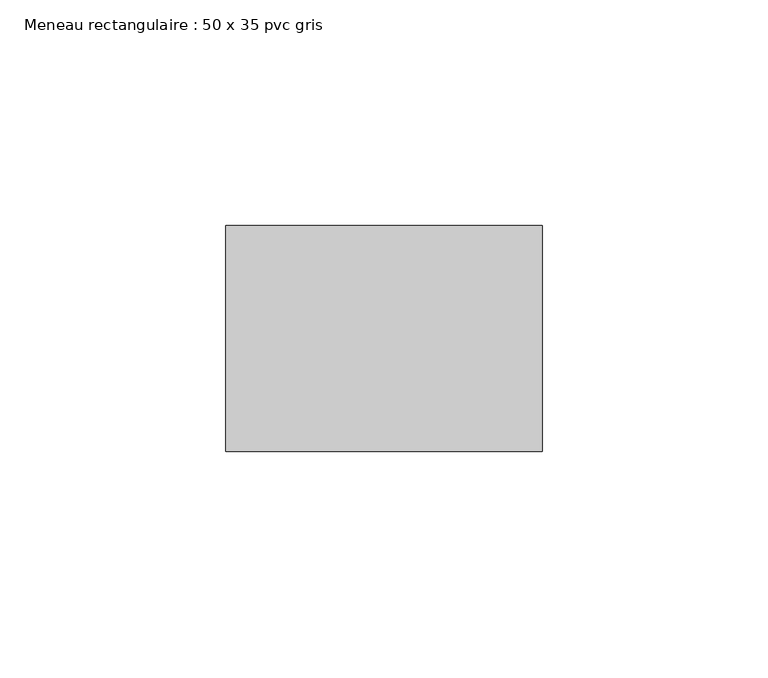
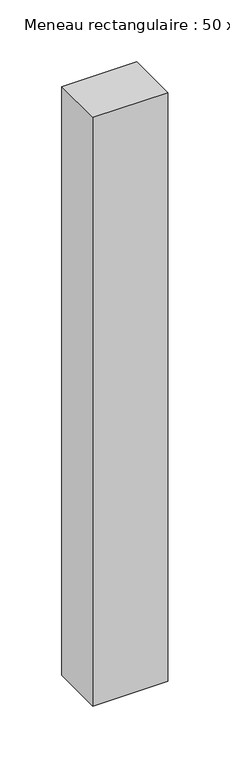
"""IFC4 building model written with IfcOpenShell, lengths in millimetres: member geometry, Meneau rectangulaire : 50 x 35 pvc gris."""

import ifcopenshell
import ifcopenshell.guid

model = None  # the IFC model being written
_history = None  # IfcOwnerHistory: only IFC2X3 demands one
_inside = {}  # id of a spatial element -> (the spatial element, [elements in it])
_under = {}  # id of a project, library or spatial element -> (it, [spatial elements below it])
_declared = {}  # id of a project -> (the project, [libraries it declares])
_typed = {}  # id of a type object -> (the type object, [elements of that type])
_made_of = {}  # id of a material, layer set ... -> (it, [elements and type objects made of it])


def new_model(schema):
    """Start an empty IFC model of exactly this schema.

    Asked for "IFC4X3", IfcOpenShell would pick the latest addendum, in which some entities
    have other attributes; the version numbers below select the first issue.
    IFC2X3 requires an IfcOwnerHistory on every rooted entity: one is made here for all.
    """
    global model, _history
    if schema == "IFC4X3":
        model = ifcopenshell.file(schema_version=(4, 3, 0, 0))
    else:
        model = ifcopenshell.file(schema=schema)
    _inside.clear()
    _under.clear()
    _declared.clear()
    _typed.clear()
    _made_of.clear()
    _history = None
    if model.schema == "IFC2X3":
        org = make("IfcOrganization", Name="unknown")
        user = make(
            "IfcPersonAndOrganization",
            ThePerson=make("IfcPerson", FamilyName="unknown"),
            TheOrganization=org,
        )
        app = make(
            "IfcApplication",
            ApplicationDeveloper=org,
            Version="unknown",
            ApplicationFullName="unknown",
            ApplicationIdentifier="unknown",
        )
        _history = make(
            "IfcOwnerHistory",
            OwningUser=user,
            OwningApplication=app,
            ChangeAction="ADDED",
            CreationDate=0,
        )
    return model


def make(cls, **values):
    """One entity of the class cls with the attributes given. An attribute that is None is left unset."""
    return model.create_entity(
        cls, **{name: value for name, value in values.items() if value is not None}
    )


def rooted(cls, **values):
    """An entity with a GlobalId (a new one), such as an element, a storey or a relation."""
    return make(cls, GlobalId=ifcopenshell.guid.new(), OwnerHistory=_history, **values)


def si_unit(unit_type, name, prefix=None):
    """IfcSIUnit, for example si_unit("LENGTHUNIT", "METRE", prefix="MILLI")."""
    return make("IfcSIUnit", UnitType=unit_type, Prefix=prefix, Name=name)


def assignment(units):
    """IfcUnitAssignment: the units of a project."""
    return None if units is None else make("IfcUnitAssignment", Units=units)


def point(xyz):
    """IfcCartesianPoint."""
    return None if xyz is None else make("IfcCartesianPoint", Coordinates=xyz)


def direction(xyz):
    """IfcDirection."""
    return None if xyz is None else make("IfcDirection", DirectionRatios=xyz)


def frame(location, z_axis=None, x_axis=None):
    """IfcAxis2Placement3D, a coordinate frame: its origin and axes. An axis left out is left unset."""
    return make(
        "IfcAxis2Placement3D",
        Location=point(location),
        Axis=direction(z_axis),
        RefDirection=direction(x_axis),
    )


def origin():
    """The frame at (0, 0, 0) with its axes left unset."""
    return frame((0.0, 0.0, 0.0))


def place(relative_to, where):
    """IfcLocalPlacement: puts the frame where relative to a parent placement (None: the world)."""
    return make(
        "IfcLocalPlacement", PlacementRelTo=relative_to, RelativePlacement=where
    )


def context(
    kind, dimensions, precision=None, world=None, true_north=None, identifier=None
):
    """IfcGeometricRepresentationContext, for example the 3D "Model" context."""
    return make(
        "IfcGeometricRepresentationContext",
        ContextIdentifier=identifier,
        ContextType=kind,
        CoordinateSpaceDimension=dimensions,
        Precision=precision,
        WorldCoordinateSystem=world,
        TrueNorth=true_north,
    )


def project(units=None, contexts=None):
    """IfcProject with its units and contexts."""
    return rooted(
        "IfcProject",
        Name="project",
        RepresentationContexts=contexts,
        UnitsInContext=assignment(units),
    )


def spatial(cls, under=None, at=None, **own):
    """A site, building, storey or space (cls), placed at a placement, below another one or the project."""
    s = rooted(cls, ObjectPlacement=at, **own)
    if under is not None:
        _under.setdefault(under.id(), (under, []))[1].append(s)
    return s


def polyline(points):
    """IfcPolyline through the points."""
    return make("IfcPolyline", Points=[point(p) for p in points])


def outline(outer, holes=None, kind="AREA"):
    """IfcArbitraryClosedProfileDef: a profile drawn as a closed curve; with holes, ...WithVoids."""
    if holes is None:
        return make("IfcArbitraryClosedProfileDef", ProfileType=kind, OuterCurve=outer)
    return make(
        "IfcArbitraryProfileDefWithVoids",
        ProfileType=kind,
        OuterCurve=outer,
        InnerCurves=holes,
    )


def extrude(swept, where, along, depth):
    """IfcExtrudedAreaSolid: the profile swept, set in the frame where, extruded along a direction by depth."""
    return make(
        "IfcExtrudedAreaSolid",
        SweptArea=swept,
        Position=where,
        ExtrudedDirection=direction(along),
        Depth=depth,
    )


def shape(context_of_items, identifier, shape_type, items):
    """IfcShapeRepresentation: the items that make up one representation, for example the "Body"."""
    return make(
        "IfcShapeRepresentation",
        ContextOfItems=context_of_items,
        RepresentationIdentifier=identifier,
        RepresentationType=shape_type,
        Items=items,
    )


def source(mapping_origin, context_of_items, identifier, shape_type, items):
    """IfcRepresentationMap: a shape defined once, which mapped items show again and again."""
    return make(
        "IfcRepresentationMap",
        MappingOrigin=mapping_origin,
        MappedRepresentation=shape(context_of_items, identifier, shape_type, items),
    )


def transform(
    local_origin,
    x_axis=None,
    y_axis=None,
    z_axis=None,
    scale=None,
    scale2=None,
    scale3=None,
    uniform=True,
):
    """IfcCartesianTransformationOperator3D, or its non-uniform kind. x_axis, y_axis, z_axis: its Axis1, 2, 3."""
    if uniform:
        return make(
            "IfcCartesianTransformationOperator3D",
            Axis1=direction(x_axis),
            Axis2=direction(y_axis),
            LocalOrigin=point(local_origin),
            Scale=scale,
            Axis3=direction(z_axis),
        )
    return make(
        "IfcCartesianTransformationOperator3DnonUniform",
        Axis1=direction(x_axis),
        Axis2=direction(y_axis),
        LocalOrigin=point(local_origin),
        Scale=scale,
        Axis3=direction(z_axis),
        Scale2=scale2,
        Scale3=scale3,
    )


def mapped(mapping_source, mapping_target):
    """IfcMappedItem: shows the shape of a source again, moved by a transform."""
    return make(
        "IfcMappedItem", MappingSource=mapping_source, MappingTarget=mapping_target
    )


def made_of(thing, what):
    """Note that an element or type object is made of a material, layer set ...; save() writes the relation."""
    if what is not None:
        _made_of.setdefault(what.id(), (what, []))[1].append(thing)
    return thing


def element(
    cls,
    number,
    at=None,
    inside=None,
    cuts=None,
    type_object=None,
    material=None,
    context=None,
    identifier="Body",
    shape_type=None,
    held_by="IfcProductDefinitionShape",
    body=None,
    shapes=None,
    **own,
):
    """One element of the class cls, such as IfcWall. Its Tag is "e" and its number.

    at: its placement. inside: the storey or other place that contains it. cuts: it is an
    opening in that element (IfcRelVoidsElement). A single representation is given by context,
    identifier, shape_type and body (its items); several are given by shapes. held_by: the class
    of the entity that holds the representations. save() writes the other relations.
    """
    e = rooted(cls, Tag="e%d" % number, ObjectPlacement=at, **own)
    if body is not None:
        shapes = [shape(context, identifier, shape_type, body)]
    if shapes is not None:
        e.Representation = make(held_by, Representations=shapes)
    if inside is not None:
        _inside.setdefault(inside.id(), (inside, []))[1].append(e)
    if cuts is not None:
        rooted(
            "IfcRelVoidsElement", RelatingBuildingElement=cuts, RelatedOpeningElement=e
        )
    if type_object is not None:
        _typed.setdefault(type_object.id(), (type_object, []))[1].append(e)
    return made_of(e, material)


def aggregate(whole, parts):
    """IfcRelAggregates: a whole, such as a stair, and the parts it consists of."""
    return rooted("IfcRelAggregates", RelatingObject=whole, RelatedObjects=parts)


def save(model, path):
    """Write the relations noted so far, then the file.

    IfcRelAggregates (storeys below a building ...), IfcRelContainedInSpatialStructure (elements
    in a storey), IfcRelDefinesByType, IfcRelAssociatesMaterial and IfcRelDeclares: one each for
    every whole, place, type object, material and project.
    """
    for whole, parts in _under.values():
        aggregate(whole, parts)
    for where, things in _inside.values():
        rooted(
            "IfcRelContainedInSpatialStructure",
            RelatedElements=things,
            RelatingStructure=where,
        )
    for kind, things in _typed.values():
        rooted("IfcRelDefinesByType", RelatedObjects=things, RelatingType=kind)
    for what, things in _made_of.values():
        rooted("IfcRelAssociatesMaterial", RelatedObjects=things, RelatingMaterial=what)
    for by, libraries in _declared.values():
        rooted("IfcRelDeclares", RelatingContext=by, RelatedDefinitions=libraries)
    model.write(path)


def meneau_rectangulaire_50_x_35_pvc_gris_e6923d6c(model_context):
    return source(origin(), model_context, "Body", "SweptSolid", [
        extrude(outline(polyline([(0.0, 0.0), (0.0, -50.0), (-70.0, -50.0), (-70.0, 0.0), (0.0, 0.0)])), frame((0.0, 0.0, -581.0), z_axis=(0.0, 0.0, 1.0), x_axis=(1.0, 0.0, 0.0)), (0.0, 0.0, 1.0), 581.0),
    ])


if __name__ == "__main__":
    model = new_model("IFC4")
    model_context = context("Model", 3, world=origin())
    ifc_project = project(units=[si_unit("LENGTHUNIT", "METRE", prefix="MILLI")], contexts=[model_context])
    site = spatial("IfcSite", under=ifc_project)
    building = spatial("IfcBuilding", under=site)
    placement = place(None, origin())
    meneau_rectangulaire_50_x_35_pvc_gris_shape = meneau_rectangulaire_50_x_35_pvc_gris_e6923d6c(model_context)
    element("IfcMember", 1, ObjectType="Meneau rectangulaire : 50 x 35 pvc gris", at=placement, inside=building, context=model_context, shape_type="MappedRepresentation", body=[
        mapped(meneau_rectangulaire_50_x_35_pvc_gris_shape, transform((0.0, 0.0, 0.0), x_axis=(1.0, 0.0, 0.0), y_axis=(0.0, 1.0, 0.0), z_axis=(0.0, 0.0, 1.0))),
    ])
    save(model, "model.ifc")
